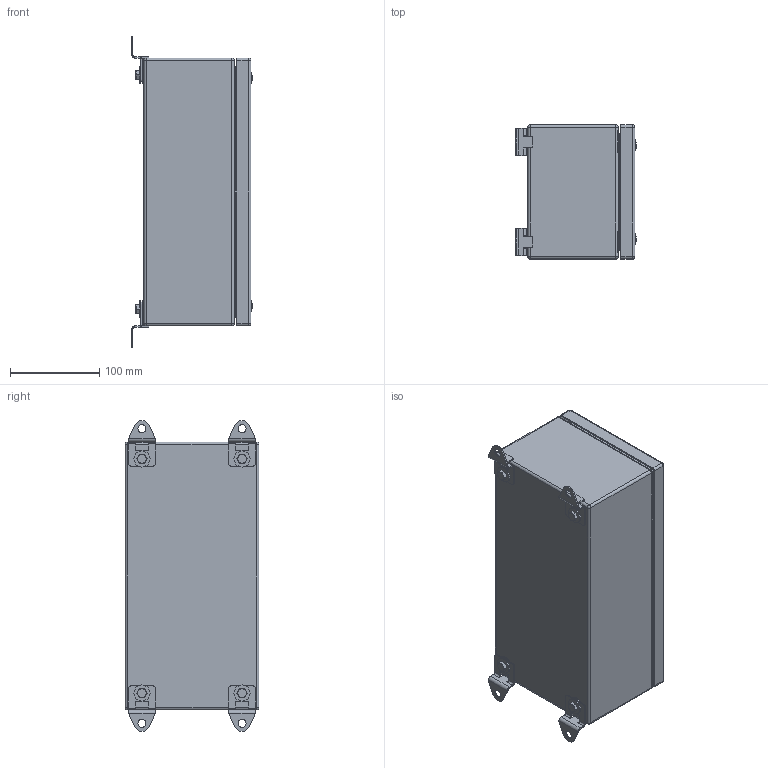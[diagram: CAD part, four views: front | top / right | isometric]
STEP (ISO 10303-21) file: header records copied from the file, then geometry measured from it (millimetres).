
FILE_DESCRIPTION(('STEP AP242'), '1');
FILE_NAME('ÊÊ Êîðîáêà êëåììíàÿ', '', ('UNSPECIFIED'), ('UNSPECIFIED'), 'C3D Converter', 'C3D Toolkit', '');
FILE_SCHEMA(('AP242_MANAGED_MODEL_BASED_3D_ENGINEERING_MIM_LF { 1 0 10303 442 1 1 4 }'));
Length unit declared in the file: millimetre
Products named in the file (22): КК; 510; 520; 521; 530; 531; 540; 541; 203-0655.61; НК.КК; 551;  202-1103.15-00530; 501
Assembly tree (53 placements, depth 4):
  КК
    510
      520
        521
        (unnamed)
        (unnamed)  x4
      530  x4
        531
        (unnamed)
    540
      541
      (unnamed)
      203-0655.61  x4
    НК.КК  x4
      551
      (unnamed)
      (unnamed)
      (unnamed)
      (unnamed)
      (unnamed)
     202-1103.15-00530  x4
    501
    (unnamed)  x4
    (unnamed)  x4
    (unnamed)  x4
    (unnamed)  x4
Bounding box: 135.19 x 150 x 348 mm (x, y, z)
Volume: 462269.6 mm3; surface area: 561828 mm2
Topology: 70 solids, 70 shells, 1114 faces, 2514 edges, 1532 vertices
Faces by surface type: plane 640, cylinder 294, cone 102, torus 38, sphere 24, bspline 16
Full cylindrical faces by diameter (mm): 4 x4, 4.134 x4, 4.917 x8, 5 x4, 5.2 x8, 5.8 x4, 6 x10, 6.4 x12, 6.5 x8, 6.6 x4, 6.647 x4, 8 x4, 9 x4, 11 x4, 11.5 x4, 12 x4, 18 x8
Entity records: 18535 total; most frequent: CARTESIAN_POINT 6827, DIRECTION 2073, ORIENTED_EDGE 1820, EDGE_CURVE 910, AXIS2_PLACEMENT_3D 777, VERTEX_POINT 587, EDGE_LOOP 567, LINE 519
